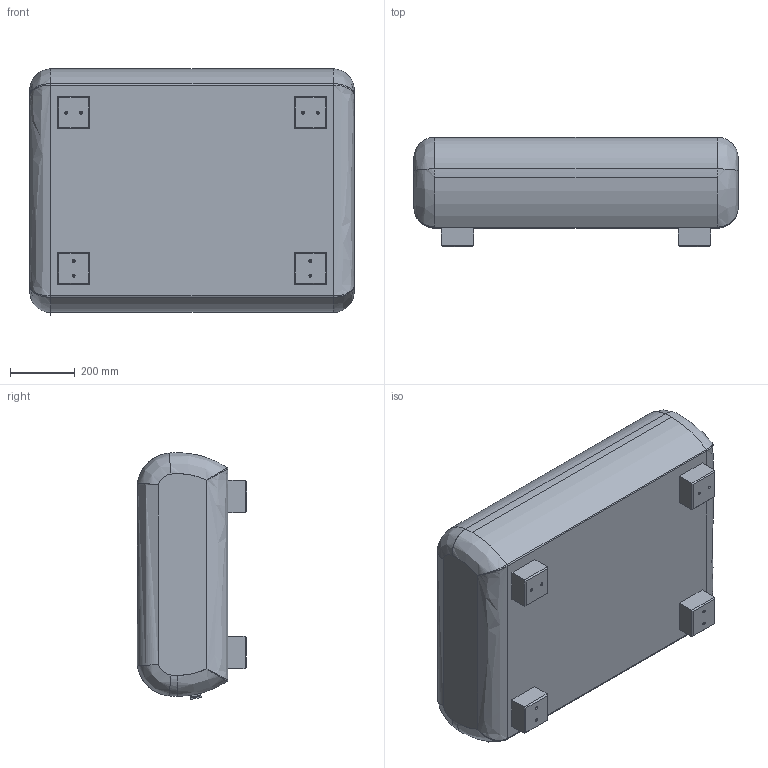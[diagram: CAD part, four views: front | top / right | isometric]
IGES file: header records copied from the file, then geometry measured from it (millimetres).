
Start section: SolidWorks IGES file using analytic representation for surfaces
Global section: file name: C:\SANTACOLE_PDM\Proyectos Catálogo\PROD-P09-006 -- CADAQUÉS\6_Técnico comercial\3D\Puff Cadaques.IGS; native system: SolidWorks 2019; preprocessor: SolidWorks 2019; author: louis.ferraz; date: 200408.135226; units: millimetre
Bounding box: 1000 x 337 x 760.83 mm (x, y, z)
Surface area: 2359516.1 mm2 (no closed solid volume)
Topology: 0 solids, 0 shells, 475 faces, 4677 edges, 4673 vertices
Faces by surface type: bspline 416, revolution 59
